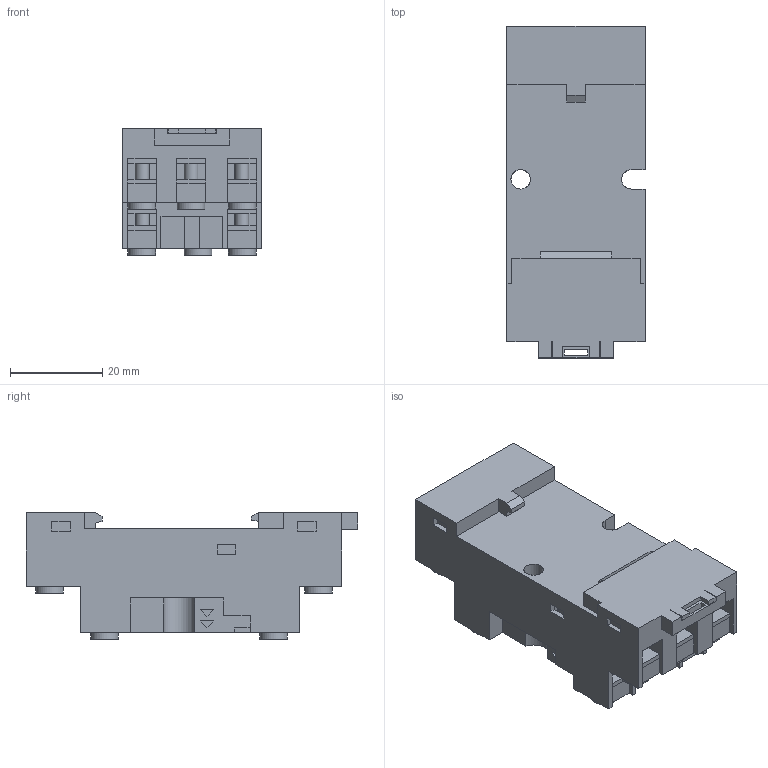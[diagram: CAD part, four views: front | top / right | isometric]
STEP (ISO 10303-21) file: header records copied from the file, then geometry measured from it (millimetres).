
FILE_DESCRIPTION(('STEP AP214'),'2;1');
FILE_NAME('94.73+morsetti_catalogo.stp','2011-05-26T12:57:46',(''),(''),'2007.1.106','THINKDESIGN','');
FILE_SCHEMA(('AUTOMOTIVE_DESIGN'));
Products named in the file (1): None
Bounding box: 30 x 72 x 27.5 mm (x, y, z)
Surface area: 19092.2 mm2 (no closed solid volume)
Topology: 0 solids, 0 shells, 675 faces, 3918 edges, 3906 vertices
Faces by surface type: plane 599, cylinder 42, bspline 34
Full cylindrical faces by diameter (mm): 3 x1, 4.2 x1, 4.7 x8, 4.8 x11, 6 x11
Entity records: 38989 total; most frequent: CARTESIAN_POINT 10594, DIRECTION 5032, COMPOSITE_CURVE_SEGMENT 3882, TRIMMED_CURVE 3542, VECTOR 3334, LINE 3334, AXIS2_PLACEMENT_3D 849, STYLED_ITEM 675
